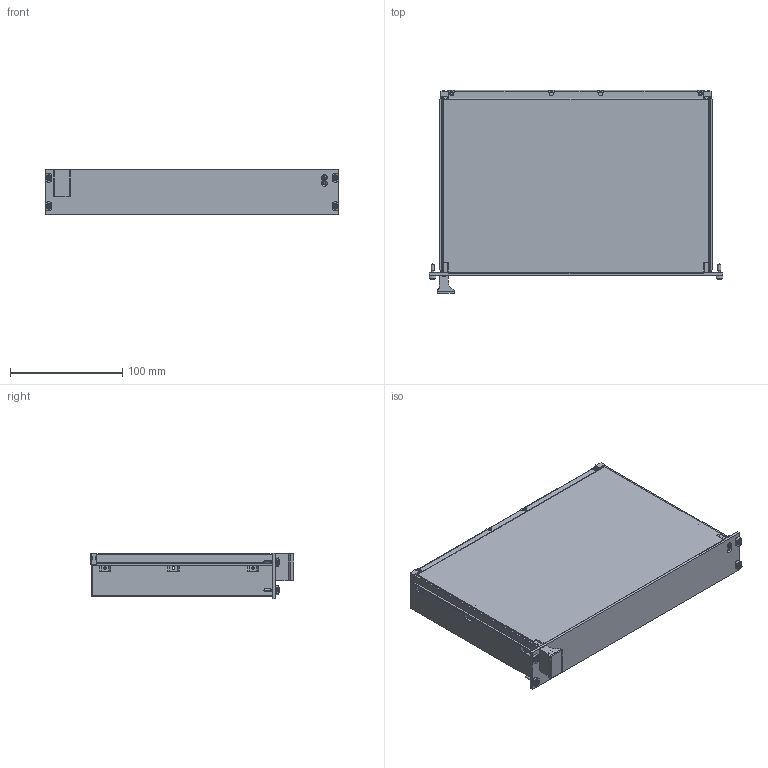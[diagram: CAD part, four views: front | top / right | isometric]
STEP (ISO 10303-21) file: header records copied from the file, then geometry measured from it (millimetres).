
FILE_DESCRIPTION (( 'STEP AP203' ), '1' );
FILE_NAME ('08616711 VERO耀璃碟 6U 8HP 籵瑞.STEP', '2026-03-28T08:14:14', ( '' ), ( '' ), 'SwSTEP 2.0', 'SolidWorks 2013', '' );
FILE_SCHEMA (( 'CONFIG_CONTROL_DESIGN' ));
Length unit declared in the file: millimetre
Products named in the file (12): 耀碟嘐隅輸; 耀璃碟裔; 窪呿蹋參忒梓齪; 耀璃碟菁; 窪呿蹋參忒; M2.5-6十字槽沉头螺钉_M2.5×6; M2.5-12醱啣蹟隊-坋趼; 窪呿蹋參忒郪璃; M2.5踢扽邳埴杶簽; 6U8HP醱啣; 08616711 VERO耀璃碟 6U 8HP 籵瑞; 耀碟臏絳寢
Assembly tree (19 placements, depth 3):
  08616711 VERO耀璃碟 6U 8HP 籵瑞
    耀璃碟菁
    6U8HP醱啣
    耀碟臏絳寢  x2
    耀碟嘐隅輸  x2
    耀璃碟裔
    窪呿蹋參忒郪璃
      窪呿蹋參忒
      窪呿蹋參忒梓齪
    M2.5踢扽邳埴杶簽  x4
    M2.5-12醱啣蹟隊-坋趼  x4
    M2.5-6十字槽沉头螺钉_M2.5×6
Bounding box: 262.05 x 181.19 x 40.34 mm (x, y, z)
Volume: 116252.7 mm3; surface area: 235339.6 mm2
Topology: 18 solids, 18 shells, 1145 faces, 3019 edges, 1957 vertices
Faces by surface type: plane 728, cylinder 219, bspline 127, cone 41, torus 18, sphere 12
Entity records: 33965 total; most frequent: CARTESIAN_POINT 10650, ORIENTED_EDGE 4778, DIRECTION 4046, EDGE_CURVE 2389, VECTOR 1756, LINE 1756, VERTEX_POINT 1549, AXIS2_PLACEMENT_3D 1145
